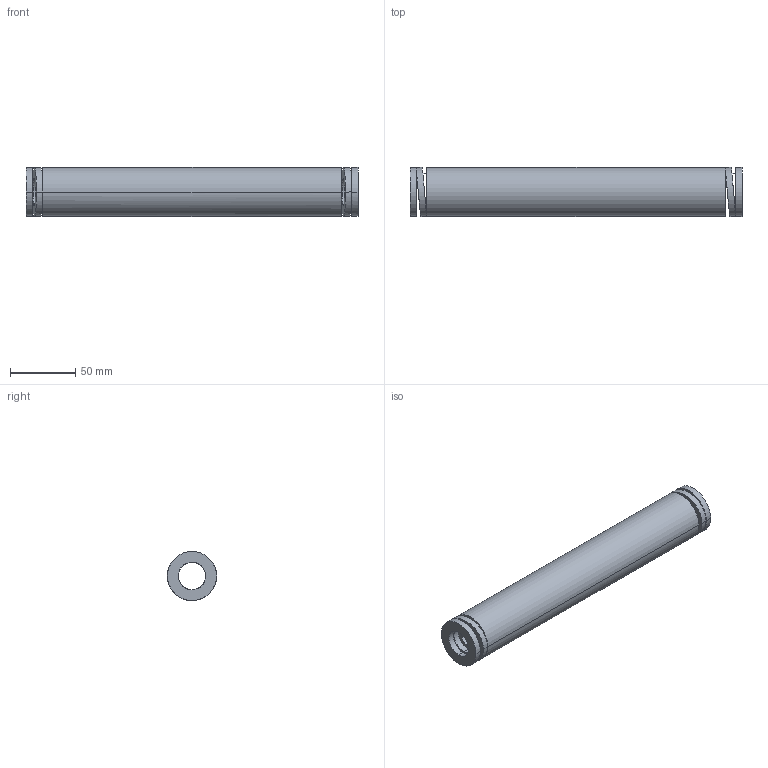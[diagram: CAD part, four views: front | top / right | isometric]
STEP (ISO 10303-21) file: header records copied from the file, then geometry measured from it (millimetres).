
FILE_DESCRIPTION(('CATIA V5 STEP Exchange'),'2;1');
FILE_NAME('C:\Users\Utente\Desktop\IO LAVORO\3D X SITO CF\X SITO\3D files 392B\392-B40-254.stp','2021-08-13T11:10:27+00:00',('none'),('none'),'CATIA Version 5 Release 20 GA (IN-10)','CATIA V5 STEP AP203','none');
FILE_SCHEMA(('CONFIG_CONTROL_DESIGN'));
Length unit declared in the file: millimetre
Products named in the file (1): 392-B40-254
Bounding box: 254 x 37.77 x 37.5 mm (x, y, z)
Volume: 186492.6 mm3; surface area: 53038.2 mm2
Topology: 1 solids, 1 shells, 38 faces, 92 edges, 64 vertices
Faces by surface type: cylinder 28, plane 10
Entity records: 1626 total; most frequent: CARTESIAN_POINT 747, ORIENTED_EDGE 184, DIRECTION 124, EDGE_CURVE 92, VERTEX_POINT 64, AXIS2_PLACEMENT_3D 59, EDGE_LOOP 56, B_SPLINE_CURVE_WITH_KNOTS 44
